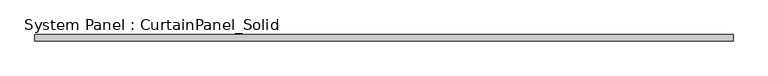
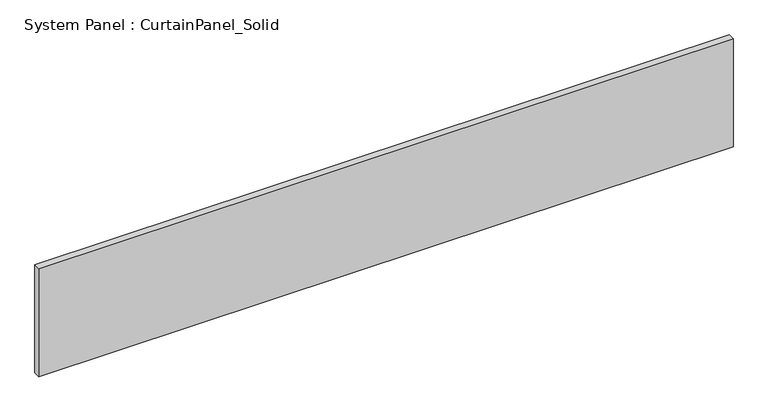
"""IFC4 building model written with IfcOpenShell, lengths in millimetres: plate geometry, System Panel : CurtainPanel_Solid."""

from ifc_helpers import new_model, si_unit, origin, origin_with_axes, place, context, project, spatial, polyline, outline, extrude, source, transform, mapped, element, save


def system_panel_curtainpanel_solid_fc584997(model_context):
    return source(origin(), model_context, "Body", "SweptSolid", [
        extrude(outline(polyline([(1332.3000001, -12.5), (-1332.3000001, -12.5), (-1332.3000001, 12.5), (1332.3000001, 12.5), (1332.3000001, -12.5)])), origin_with_axes(), (0.0, 0.0, 1.0), 438.3),
    ])


if __name__ == "__main__":
    model = new_model("IFC4")
    model_context = context("Model", 3, world=origin())
    ifc_project = project(units=[si_unit("LENGTHUNIT", "METRE", prefix="MILLI")], contexts=[model_context])
    site = spatial("IfcSite", under=ifc_project)
    building = spatial("IfcBuilding", under=site)
    placement = place(None, origin())
    system_panel_curtainpanel_solid_shape = system_panel_curtainpanel_solid_fc584997(model_context)
    element("IfcPlate", 1, ObjectType="System Panel : CurtainPanel_Solid", at=placement, inside=building, context=model_context, shape_type="MappedRepresentation", body=[
        mapped(system_panel_curtainpanel_solid_shape, transform((0.0, 0.0, 0.0), x_axis=(1.0, 0.0, 0.0), y_axis=(0.0, 1.0, 0.0), z_axis=(0.0, 0.0, 1.0))),
    ])
    save(model, "model.ifc")
